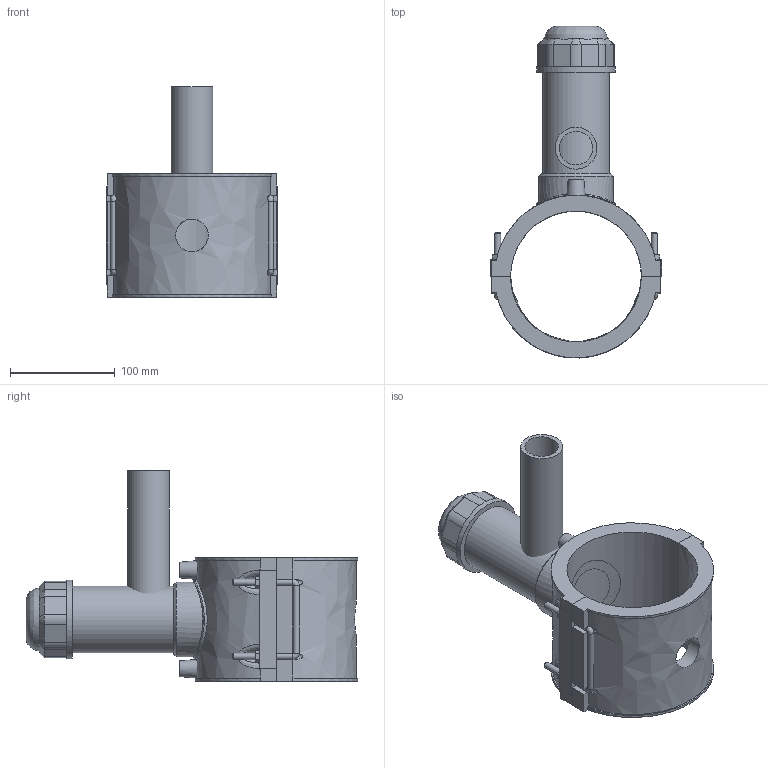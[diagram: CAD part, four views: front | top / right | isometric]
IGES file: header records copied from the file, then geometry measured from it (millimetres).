
Global section: file name: 4963P4125040; native system: Autodesk Inventor 2019; preprocessor: unknown; author: KIM; date: 20220317.112843; units: millimetre
Bounding box: 164 x 317.2 x 201 mm (x, y, z)
Volume: 1154688.7 mm3; surface area: 239783.9 mm2
Topology: 3 solids, 5 shells, 201 faces, 517 edges, 333 vertices
Faces by surface type: bspline 201
